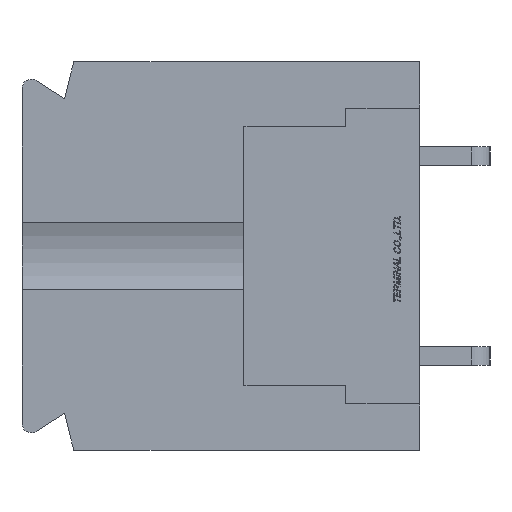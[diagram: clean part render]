
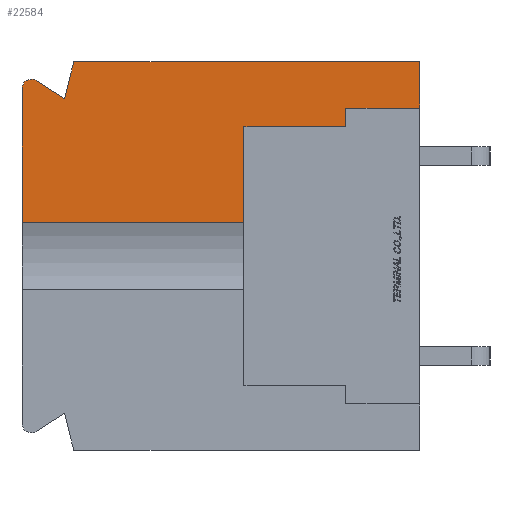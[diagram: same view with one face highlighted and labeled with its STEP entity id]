
A CAD part, left-side view. The second image highlights one B-rep face of the part: STEP entity #22584.
In plain terms, the highlighted planar face has unit normal (-1, 0, 0).
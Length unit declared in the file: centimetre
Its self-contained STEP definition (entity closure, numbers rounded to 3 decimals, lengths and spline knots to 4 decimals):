
#559=CIRCLE('',#38177,0.05);
#1137=VECTOR('',#25064,1.);
#1138=VECTOR('',#25065,1.);
#1139=VECTOR('',#25066,1.);
#1140=VECTOR('',#25067,1.);
#1141=VECTOR('',#25068,1.);
#1142=VECTOR('',#25069,1.);
#1143=VECTOR('',#25070,1.);
#1144=VECTOR('',#25071,1.);
#1145=VECTOR('',#25074,1.);
#1146=VECTOR('',#25075,1.);
#3856=LINE('',#30153,#1137);
#3857=LINE('',#30156,#1138);
#3858=LINE('',#30158,#1139);
#3859=LINE('',#30160,#1140);
#3860=LINE('',#30162,#1141);
#3861=LINE('',#30164,#1142);
#3862=LINE('',#30166,#1143);
#3863=LINE('',#30168,#1144);
#3864=LINE('',#30172,#1145);
#3865=LINE('',#30174,#1146);
#6588=VERTEX_POINT('',#30154);
#6589=VERTEX_POINT('',#30155);
#6590=VERTEX_POINT('',#30157);
#6591=VERTEX_POINT('',#30159);
#6592=VERTEX_POINT('',#30161);
#6593=VERTEX_POINT('',#30163);
#6594=VERTEX_POINT('',#30165);
#6595=VERTEX_POINT('',#30167);
#6596=VERTEX_POINT('',#30169);
#6597=VERTEX_POINT('',#30171);
#6598=VERTEX_POINT('',#30173);
#9117=EDGE_CURVE('',#6588,#6589,#3856,.T.);
#9118=EDGE_CURVE('',#6590,#6588,#3857,.T.);
#9119=EDGE_CURVE('',#6591,#6590,#3858,.T.);
#9120=EDGE_CURVE('',#6592,#6591,#3859,.T.);
#9121=EDGE_CURVE('',#6593,#6592,#3860,.T.);
#9122=EDGE_CURVE('',#6594,#6593,#3861,.T.);
#9123=EDGE_CURVE('',#6595,#6594,#3862,.T.);
#9124=EDGE_CURVE('',#6596,#6595,#3863,.T.);
#9125=EDGE_CURVE('',#6597,#6596,#559,.T.);
#9126=EDGE_CURVE('',#6598,#6597,#3864,.T.);
#9127=EDGE_CURVE('',#6598,#6589,#3865,.T.);
#12761=ORIENTED_EDGE('',*,*,#9117,.F.);
#12762=ORIENTED_EDGE('',*,*,#9118,.F.);
#12763=ORIENTED_EDGE('',*,*,#9119,.F.);
#12764=ORIENTED_EDGE('',*,*,#9120,.F.);
#12765=ORIENTED_EDGE('',*,*,#9121,.F.);
#12766=ORIENTED_EDGE('',*,*,#9122,.F.);
#12767=ORIENTED_EDGE('',*,*,#9123,.F.);
#12768=ORIENTED_EDGE('',*,*,#9124,.F.);
#12769=ORIENTED_EDGE('',*,*,#9125,.F.);
#12770=ORIENTED_EDGE('',*,*,#9126,.F.);
#12771=ORIENTED_EDGE('',*,*,#9127,.T.);
#19666=EDGE_LOOP('',(#12761,#12762,#12763,#12764,#12765,#12766,#12767,#12768,
#12769,#12770,#12771));
#21130=FACE_BOUND('',#19666,.T.);
#22584=ADVANCED_FACE('',(#21130),#23890,.F.);
#23890=PLANE('',#38176);
#25063=DIRECTION('',(1.,0.,0.));
#25064=DIRECTION('',(0.,0.,-1.));
#25065=DIRECTION('',(0.,1.,0.));
#25066=DIRECTION('',(0.,0.,-1.));
#25067=DIRECTION('',(0.,1.,0.));
#25068=DIRECTION('',(0.,0.,-1.));
#25069=DIRECTION('',(0.,-1.,0.));
#25070=DIRECTION('',(0.,-0.243,0.97));
#25071=DIRECTION('',(0.,-0.844,-0.536));
#25072=DIRECTION('',(1.,0.,0.));
#25073=DIRECTION('',(0.,0.,-0.05));
#25074=DIRECTION('',(0.,0.,1.));
#25075=DIRECTION('',(0.,-1.,0.));
#30152=CARTESIAN_POINT('',(-1.1,1.082,0.));
#30153=CARTESIAN_POINT('',(-1.1,0.95,-0.7));
#30154=CARTESIAN_POINT('',(-1.1,0.95,0.7));
#30155=CARTESIAN_POINT('',(-1.1,0.95,0.1809));
#30156=CARTESIAN_POINT('',(-1.1,0.95,0.7));
#30157=CARTESIAN_POINT('',(-1.1,0.4,0.7));
#30158=CARTESIAN_POINT('',(-1.1,0.4,0.7));
#30159=CARTESIAN_POINT('',(-1.1,0.4,0.8));
#30160=CARTESIAN_POINT('',(-1.1,0.4,0.8));
#30161=CARTESIAN_POINT('',(-1.1,0.,0.8));
#30162=CARTESIAN_POINT('',(-1.1,0.,1.05));
#30163=CARTESIAN_POINT('',(-1.1,0.,1.05));
#30164=CARTESIAN_POINT('',(-1.1,1.87,1.05));
#30165=CARTESIAN_POINT('',(-1.1,1.87,1.05));
#30166=CARTESIAN_POINT('',(-1.1,1.92,0.85));
#30167=CARTESIAN_POINT('',(-1.1,1.92,0.85));
#30168=CARTESIAN_POINT('',(-1.1,2.0742,0.9478));
#30169=CARTESIAN_POINT('',(-1.1,2.0742,0.9478));
#30170=CARTESIAN_POINT('',(-1.1,2.1,0.905));
#30171=CARTESIAN_POINT('',(-1.1,2.15,0.905));
#30172=CARTESIAN_POINT('',(-1.1,2.15,-0.905));
#30173=CARTESIAN_POINT('',(-1.1,2.15,0.1809));
#30174=CARTESIAN_POINT('',(-1.1,1.55,0.1809));
#38176=AXIS2_PLACEMENT_3D('',#30152,#25063,$);
#38177=AXIS2_PLACEMENT_3D('',#30170,#25072,#25073);
